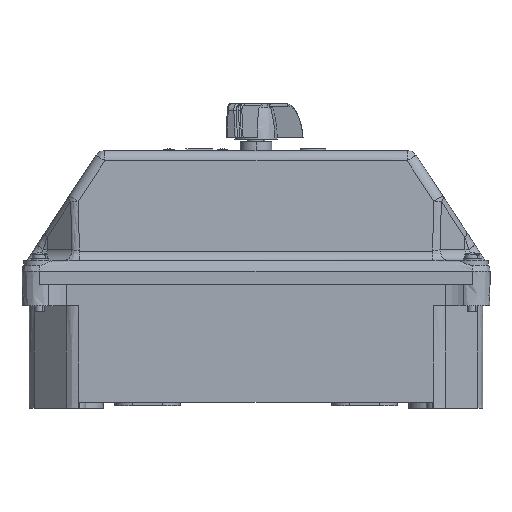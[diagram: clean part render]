
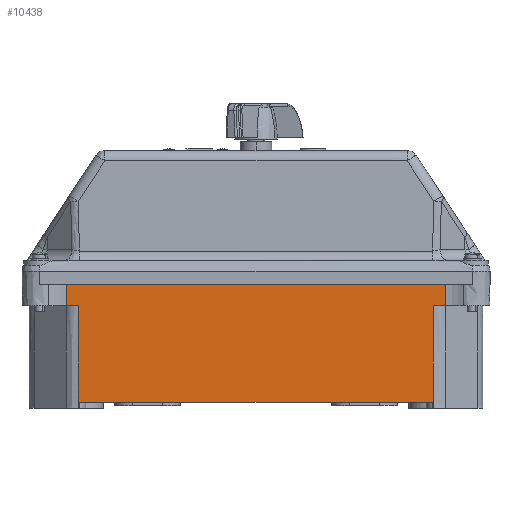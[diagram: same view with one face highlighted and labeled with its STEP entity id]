
A CAD part, left-side view. The second image highlights one B-rep face of the part: STEP entity #10438.
In plain terms, the highlighted free-form (B-spline) face has degree [1, 1] with [2, 2] control points.
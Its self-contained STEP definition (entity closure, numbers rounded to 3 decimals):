
#261 = CARTESIAN_POINT ( 'NONE',  ( -72., -107.033, 66.5 ) ) ;
#820 = CARTESIAN_POINT ( 'NONE',  ( -72., -107.033, 0. ) ) ;
#821 = VERTEX_POINT ( 'NONE', #16393 ) ;
#2028 = CARTESIAN_POINT ( 'NONE',  ( -72., -107.033, 54.5 ) ) ;
#2263 = ORIENTED_EDGE ( 'NONE', *, *, #16635, .T. ) ;
#2402 = CARTESIAN_POINT ( 'NONE',  ( -72., 107.033, 54.5 ) ) ;
#2692 = CARTESIAN_POINT ( 'NONE',  ( -72., -107.033, 66.5 ) ) ;
#2805 = CARTESIAN_POINT ( 'NONE',  ( -72., -100., 54.5 ) ) ;
#2993 = EDGE_CURVE ( 'NONE', #9300, #18029, #5719, .T. ) ;
#3093 = ORIENTED_EDGE ( 'NONE', *, *, #23208, .F. ) ;
#3488 = VERTEX_POINT ( 'NONE', #21924 ) ;
#3876 = CARTESIAN_POINT ( 'NONE',  ( -72., -107.033, 54.5 ) ) ;
#4530 = CARTESIAN_POINT ( 'NONE',  ( -72., 107.033, 66.5 ) ) ;
#5109 = CARTESIAN_POINT ( 'NONE',  ( -72., -100., 54.5 ) ) ;
#5719 = B_SPLINE_CURVE_WITH_KNOTS ( 'NONE', 1,
 ( #5109, #24317 ),
 .UNSPECIFIED., .F., .F.,
 ( 2, 2 ),
 ( -1., 0. ),
 .UNSPECIFIED. ) ;
#7105 = CARTESIAN_POINT ( 'NONE',  ( -72., -107.033, 54.5 ) ) ;
#7443 = EDGE_CURVE ( 'NONE', #3488, #821, #15190, .T. ) ;
#7633 = ORIENTED_EDGE ( 'NONE', *, *, #12908, .F. ) ;
#7871 = ORIENTED_EDGE ( 'NONE', *, *, #25720, .F. ) ;
#8168 = CARTESIAN_POINT ( 'NONE',  ( -72., -107.033, 66.5 ) ) ;
#9300 = VERTEX_POINT ( 'NONE', #14455 ) ;
#10235 = ORIENTED_EDGE ( 'NONE', *, *, #2993, .F. ) ;
#10438 = ADVANCED_FACE ( 'NONE', ( #19062 ), #15863, .F. ) ;
#11231 = EDGE_CURVE ( 'NONE', #20639, #3488, #18755, .T. ) ;
#11774 = B_SPLINE_CURVE_WITH_KNOTS ( 'NONE', 1,
 ( #261, #4530 ),
 .UNSPECIFIED., .F., .F.,
 ( 2, 2 ),
 ( 0., 1. ),
 .UNSPECIFIED. ) ;
#12037 = EDGE_CURVE ( 'NONE', #18029, #20639, #23016, .T. ) ;
#12595 = CARTESIAN_POINT ( 'NONE',  ( -72., 107.033, 66.5 ) ) ;
#12634 = EDGE_LOOP ( 'NONE', ( #7633, #17873, #26428, #27260, #10235, #3093, #7871, #2263 ) ) ;
#12908 = EDGE_CURVE ( 'NONE', #821, #22122, #13009, .T. ) ;
#13009 = B_SPLINE_CURVE_WITH_KNOTS ( 'NONE', 1,
 ( #27418, #14959 ),
 .UNSPECIFIED., .F., .F.,
 ( 2, 2 ),
 ( 0., 1. ),
 .UNSPECIFIED. ) ;
#13703 = CARTESIAN_POINT ( 'NONE',  ( -72., -100., 0. ) ) ;
#14455 = CARTESIAN_POINT ( 'NONE',  ( -72., -100., 54.5 ) ) ;
#14959 = CARTESIAN_POINT ( 'NONE',  ( -72., 107.033, 66.5 ) ) ;
#15190 = B_SPLINE_CURVE_WITH_KNOTS ( 'NONE', 1,
 ( #21196, #2402 ),
 .UNSPECIFIED., .F., .F.,
 ( 2, 2 ),
 ( 0., 1. ),
 .UNSPECIFIED. ) ;
#15863 = B_SPLINE_SURFACE_WITH_KNOTS ( 'NONE', 1, 1, ( 
 ( #820, #19984 ),
 ( #24392, #22277 ) ),
 .UNSPECIFIED., .F., .F., .F.,
 ( 2, 2 ),
 ( 2, 2 ),
 ( 0., 1. ),
 ( 0., 1. ),
 .UNSPECIFIED. ) ;
#15919 = CARTESIAN_POINT ( 'NONE',  ( -72., 100., 54.5 ) ) ;
#16393 = CARTESIAN_POINT ( 'NONE',  ( -72., 107.033, 54.5 ) ) ;
#16635 = EDGE_CURVE ( 'NONE', #26625, #22122, #11774, .T. ) ;
#17667 = CARTESIAN_POINT ( 'NONE',  ( -72., 100., 0. ) ) ;
#17760 = B_SPLINE_CURVE_WITH_KNOTS ( 'NONE', 1,
 ( #7105, #2805 ),
 .UNSPECIFIED., .F., .F.,
 ( 2, 2 ),
 ( 0., 1. ),
 .UNSPECIFIED. ) ;
#17873 = ORIENTED_EDGE ( 'NONE', *, *, #7443, .F. ) ;
#18029 = VERTEX_POINT ( 'NONE', #13703 ) ;
#18755 = B_SPLINE_CURVE_WITH_KNOTS ( 'NONE', 1,
 ( #17667, #15919 ),
 .UNSPECIFIED., .F., .F.,
 ( 2, 2 ),
 ( -1., 0. ),
 .UNSPECIFIED. ) ;
#19062 = FACE_OUTER_BOUND ( 'NONE', #12634, .T. ) ;
#19984 = CARTESIAN_POINT ( 'NONE',  ( -72., -107.033, 66.5 ) ) ;
#20639 = VERTEX_POINT ( 'NONE', #23224 ) ;
#21196 = CARTESIAN_POINT ( 'NONE',  ( -72., 100., 54.5 ) ) ;
#21268 = VERTEX_POINT ( 'NONE', #2028 ) ;
#21924 = CARTESIAN_POINT ( 'NONE',  ( -72., 100., 54.5 ) ) ;
#22122 = VERTEX_POINT ( 'NONE', #12595 ) ;
#22277 = CARTESIAN_POINT ( 'NONE',  ( -72., 107.033, 66.5 ) ) ;
#22307 = CARTESIAN_POINT ( 'NONE',  ( -72., -100., 0. ) ) ;
#23016 = B_SPLINE_CURVE_WITH_KNOTS ( 'NONE', 1,
 ( #22307, #24426 ),
 .UNSPECIFIED., .F., .F.,
 ( 2, 2 ),
 ( 0., 1. ),
 .UNSPECIFIED. ) ;
#23208 = EDGE_CURVE ( 'NONE', #21268, #9300, #17760, .T. ) ;
#23224 = CARTESIAN_POINT ( 'NONE',  ( -72., 100., 0. ) ) ;
#24317 = CARTESIAN_POINT ( 'NONE',  ( -72., -100., 0. ) ) ;
#24392 = CARTESIAN_POINT ( 'NONE',  ( -72., 107.033, 0. ) ) ;
#24426 = CARTESIAN_POINT ( 'NONE',  ( -72., 100., 0. ) ) ;
#25720 = EDGE_CURVE ( 'NONE', #26625, #21268, #27124, .T. ) ;
#26428 = ORIENTED_EDGE ( 'NONE', *, *, #11231, .F. ) ;
#26625 = VERTEX_POINT ( 'NONE', #2692 ) ;
#27124 = B_SPLINE_CURVE_WITH_KNOTS ( 'NONE', 1,
 ( #8168, #3876 ),
 .UNSPECIFIED., .F., .F.,
 ( 2, 2 ),
 ( 0., 1. ),
 .UNSPECIFIED. ) ;
#27260 = ORIENTED_EDGE ( 'NONE', *, *, #12037, .F. ) ;
#27418 = CARTESIAN_POINT ( 'NONE',  ( -72., 107.033, 54.5 ) ) ;
